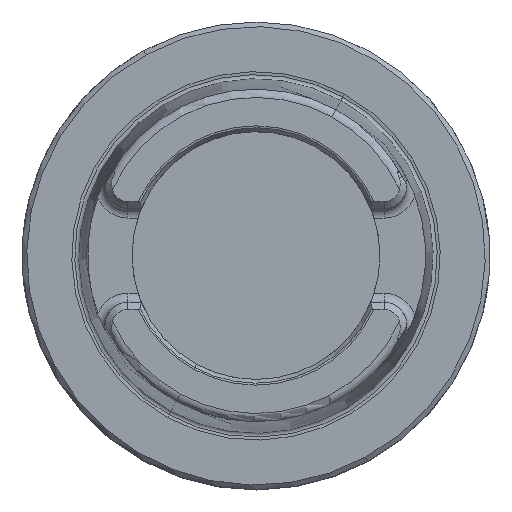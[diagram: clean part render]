
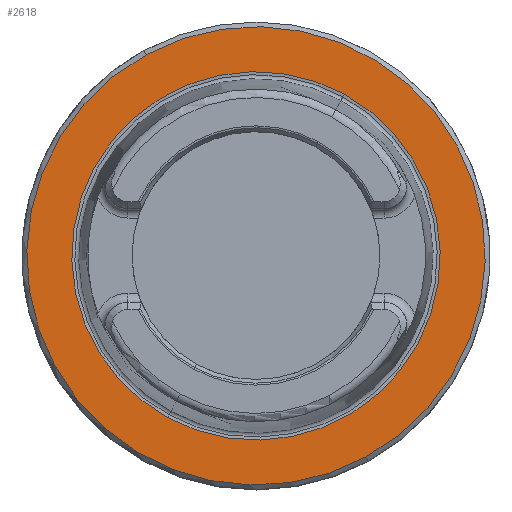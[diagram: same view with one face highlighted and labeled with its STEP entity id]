
A CAD part, top view. The second image highlights one B-rep face of the part: STEP entity #2618.
In plain terms, the highlighted planar face has unit normal (0, 0, 1).
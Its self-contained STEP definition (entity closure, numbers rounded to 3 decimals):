
#2560=AXIS2_PLACEMENT_3D('Circle Axis2P3D',#2558,#2559,$) ;
#2580=AXIS2_PLACEMENT_3D('Circle Axis2P3D',#2578,#2579,$) ;
#2594=AXIS2_PLACEMENT_3D('Plane Axis2P3D',#2591,#2592,#2593) ;
#2602=AXIS2_PLACEMENT_3D('Circle Axis2P3D',#2600,#2601,$) ;
#2611=AXIS2_PLACEMENT_3D('Circle Axis2P3D',#2609,#2610,$) ;
#2555=CARTESIAN_POINT('Vertex',(23.492,-43.002,0.)) ;
#2558=CARTESIAN_POINT('Axis2P3D Location',(0.,0.,0.)) ;
#2562=CARTESIAN_POINT('Vertex',(-23.492,43.002,0.)) ;
#2578=CARTESIAN_POINT('Axis2P3D Location',(0.,0.,0.)) ;
#2591=CARTESIAN_POINT('Axis2P3D Location',(0.,-38.285,0.)) ;
#2600=CARTESIAN_POINT('Axis2P3D Location',(0.,0.,0.)) ;
#2604=CARTESIAN_POINT('Vertex',(18.88,34.56,0.)) ;
#2606=CARTESIAN_POINT('Vertex',(-18.88,-34.56,0.)) ;
#2609=CARTESIAN_POINT('Axis2P3D Location',(0.,0.,0.)) ;
#2559=DIRECTION('Axis2P3D Direction',(0.,0.,-1.)) ;
#2579=DIRECTION('Axis2P3D Direction',(0.,0.,-1.)) ;
#2592=DIRECTION('Axis2P3D Direction',(0.,0.,-1.)) ;
#2593=DIRECTION('Axis2P3D XDirection',(-1.,0.,0.)) ;
#2601=DIRECTION('Axis2P3D Direction',(0.,0.,-1.)) ;
#2610=DIRECTION('Axis2P3D Direction',(0.,0.,-1.)) ;
#2597=ORIENTED_EDGE('',*,*,#2564,.F.) ;
#2598=ORIENTED_EDGE('',*,*,#2582,.F.) ;
#2615=ORIENTED_EDGE('',*,*,#2608,.T.) ;
#2616=ORIENTED_EDGE('',*,*,#2613,.T.) ;
#2617=FACE_BOUND('',#2614,.T.) ;
#2618=ADVANCED_FACE('NO_CUT',(#2599,#2617),#2595,.F.) ;
#2561=CIRCLE('generated circle',#2560,49.) ;
#2581=CIRCLE('generated circle',#2580,49.) ;
#2603=CIRCLE('generated circle',#2602,39.381) ;
#2612=CIRCLE('generated circle',#2611,39.381) ;
#2564=EDGE_CURVE('',#2556,#2563,#2561,.T.) ;
#2582=EDGE_CURVE('',#2563,#2556,#2581,.T.) ;
#2608=EDGE_CURVE('',#2605,#2607,#2603,.T.) ;
#2613=EDGE_CURVE('',#2607,#2605,#2612,.T.) ;
#2596=EDGE_LOOP('',(#2597,#2598)) ;
#2614=EDGE_LOOP('',(#2615,#2616)) ;
#2599=FACE_OUTER_BOUND('',#2596,.T.) ;
#2595=PLANE('',#2594) ;
#2556=VERTEX_POINT('',#2555) ;
#2563=VERTEX_POINT('',#2562) ;
#2605=VERTEX_POINT('',#2604) ;
#2607=VERTEX_POINT('',#2606) ;
